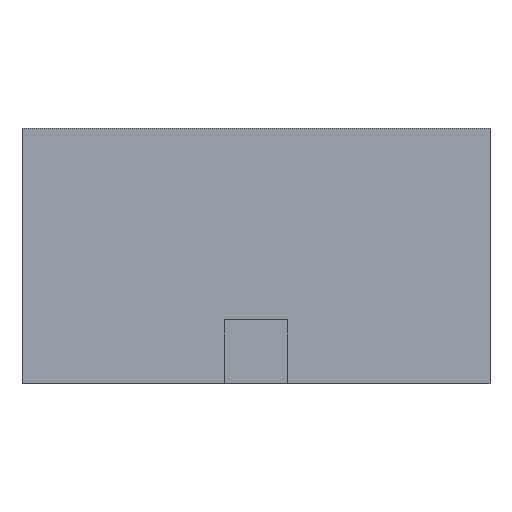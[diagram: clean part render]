
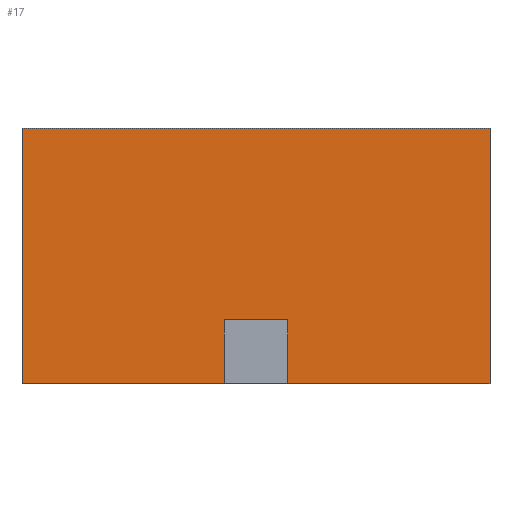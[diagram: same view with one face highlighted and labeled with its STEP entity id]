
A CAD part, left-side view. The second image highlights one B-rep face of the part: STEP entity #17.
In plain terms, the highlighted planar face has unit normal (-1, 0, 0).
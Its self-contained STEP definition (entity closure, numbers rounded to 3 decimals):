
#17 = ADVANCED_FACE('',(#18),#32,.F.);
#18 = FACE_BOUND('',#19,.F.);
#19 = EDGE_LOOP('',(#20,#55,#83,#111,#138,#164,#191,#214));
#20 = ORIENTED_EDGE('',*,*,#21,.F.);
#21 = EDGE_CURVE('',#22,#24,#26,.T.);
#22 = VERTEX_POINT('',#23);
#23 = CARTESIAN_POINT('',(46.,-11.,15.));
#24 = VERTEX_POINT('',#25);
#25 = CARTESIAN_POINT('',(46.,11.,15.));
#26 = SURFACE_CURVE('',#27,(#31,#43),.PCURVE_S1.);
#27 = LINE('',#28,#29);
#28 = CARTESIAN_POINT('',(46.,-11.,15.));
#29 = VECTOR('',#30,1.);
#30 = DIRECTION('',(0.,1.,0.));
#31 = PCURVE('',#32,#37);
#32 = PLANE('',#33);
#33 = AXIS2_PLACEMENT_3D('',#34,#35,#36);
#34 = CARTESIAN_POINT('',(46.,-11.,3.));
#35 = DIRECTION('',(1.,0.,0.));
#36 = DIRECTION('',(0.,0.,1.));
#37 = DEFINITIONAL_REPRESENTATION('',(#38),#42);
#38 = LINE('',#39,#40);
#39 = CARTESIAN_POINT('',(12.,0.));
#40 = VECTOR('',#41,1.);
#41 = DIRECTION('',(0.,-1.));
#42 = ( GEOMETRIC_REPRESENTATION_CONTEXT(2)
PARAMETRIC_REPRESENTATION_CONTEXT() REPRESENTATION_CONTEXT('2D SPACE',''
  ) );
#43 = PCURVE('',#44,#49);
#44 = PLANE('',#45);
#45 = AXIS2_PLACEMENT_3D('',#46,#47,#48);
#46 = CARTESIAN_POINT('',(46.,-11.,15.));
#47 = DIRECTION('',(0.,0.,1.));
#48 = DIRECTION('',(1.,0.,0.));
#49 = DEFINITIONAL_REPRESENTATION('',(#50),#54);
#50 = LINE('',#51,#52);
#51 = CARTESIAN_POINT('',(0.,0.));
#52 = VECTOR('',#53,1.);
#53 = DIRECTION('',(0.,1.));
#54 = ( GEOMETRIC_REPRESENTATION_CONTEXT(2)
PARAMETRIC_REPRESENTATION_CONTEXT() REPRESENTATION_CONTEXT('2D SPACE',''
  ) );
#55 = ORIENTED_EDGE('',*,*,#56,.F.);
#56 = EDGE_CURVE('',#57,#22,#59,.T.);
#57 = VERTEX_POINT('',#58);
#58 = CARTESIAN_POINT('',(46.,-11.,3.));
#59 = SURFACE_CURVE('',#60,(#64,#71),.PCURVE_S1.);
#60 = LINE('',#61,#62);
#61 = CARTESIAN_POINT('',(46.,-11.,3.));
#62 = VECTOR('',#63,1.);
#63 = DIRECTION('',(0.,0.,1.));
#64 = PCURVE('',#32,#65);
#65 = DEFINITIONAL_REPRESENTATION('',(#66),#70);
#66 = LINE('',#67,#68);
#67 = CARTESIAN_POINT('',(0.,0.));
#68 = VECTOR('',#69,1.);
#69 = DIRECTION('',(1.,0.));
#70 = ( GEOMETRIC_REPRESENTATION_CONTEXT(2)
PARAMETRIC_REPRESENTATION_CONTEXT() REPRESENTATION_CONTEXT('2D SPACE',''
  ) );
#71 = PCURVE('',#72,#77);
#72 = PLANE('',#73);
#73 = AXIS2_PLACEMENT_3D('',#74,#75,#76);
#74 = CARTESIAN_POINT('',(46.,-11.,3.));
#75 = DIRECTION('',(0.,1.,0.));
#76 = DIRECTION('',(0.,0.,1.));
#77 = DEFINITIONAL_REPRESENTATION('',(#78),#82);
#78 = LINE('',#79,#80);
#79 = CARTESIAN_POINT('',(0.,0.));
#80 = VECTOR('',#81,1.);
#81 = DIRECTION('',(1.,0.));
#82 = ( GEOMETRIC_REPRESENTATION_CONTEXT(2)
PARAMETRIC_REPRESENTATION_CONTEXT() REPRESENTATION_CONTEXT('2D SPACE',''
  ) );
#83 = ORIENTED_EDGE('',*,*,#84,.T.);
#84 = EDGE_CURVE('',#57,#85,#87,.T.);
#85 = VERTEX_POINT('',#86);
#86 = CARTESIAN_POINT('',(46.,-1.,3.));
#87 = SURFACE_CURVE('',#88,(#92,#99),.PCURVE_S1.);
#88 = LINE('',#89,#90);
#89 = CARTESIAN_POINT('',(46.,-11.,3.));
#90 = VECTOR('',#91,1.);
#91 = DIRECTION('',(0.,1.,0.));
#92 = PCURVE('',#32,#93);
#93 = DEFINITIONAL_REPRESENTATION('',(#94),#98);
#94 = LINE('',#95,#96);
#95 = CARTESIAN_POINT('',(0.,0.));
#96 = VECTOR('',#97,1.);
#97 = DIRECTION('',(0.,-1.));
#98 = ( GEOMETRIC_REPRESENTATION_CONTEXT(2)
PARAMETRIC_REPRESENTATION_CONTEXT() REPRESENTATION_CONTEXT('2D SPACE',''
  ) );
#99 = PCURVE('',#100,#105);
#100 = PLANE('',#101);
#101 = AXIS2_PLACEMENT_3D('',#102,#103,#104);
#102 = CARTESIAN_POINT('',(46.,-11.,3.));
#103 = DIRECTION('',(0.,0.,1.));
#104 = DIRECTION('',(1.,0.,0.));
#105 = DEFINITIONAL_REPRESENTATION('',(#106),#110);
#106 = LINE('',#107,#108);
#107 = CARTESIAN_POINT('',(0.,0.));
#108 = VECTOR('',#109,1.);
#109 = DIRECTION('',(0.,1.));
#110 = ( GEOMETRIC_REPRESENTATION_CONTEXT(2)
PARAMETRIC_REPRESENTATION_CONTEXT() REPRESENTATION_CONTEXT('2D SPACE',''
  ) );
#111 = ORIENTED_EDGE('',*,*,#112,.T.);
#112 = EDGE_CURVE('',#85,#113,#115,.T.);
#113 = VERTEX_POINT('',#114);
#114 = CARTESIAN_POINT('',(46.,-1.,6.));
#115 = SURFACE_CURVE('',#116,(#120,#126),.PCURVE_S1.);
#116 = LINE('',#117,#118);
#117 = CARTESIAN_POINT('',(46.,-1.,3.));
#118 = VECTOR('',#119,1.);
#119 = DIRECTION('',(0.,0.,1.));
#120 = PCURVE('',#32,#121);
#121 = DEFINITIONAL_REPRESENTATION('',(#122),#125);
#122 = B_SPLINE_CURVE_WITH_KNOTS('',1,(#123,#124),.UNSPECIFIED.,.F.,.F.,
  (2,2),(0.,3.),.PIECEWISE_BEZIER_KNOTS.);
#123 = CARTESIAN_POINT('',(0.,-10.));
#124 = CARTESIAN_POINT('',(3.,-10.));
#125 = ( GEOMETRIC_REPRESENTATION_CONTEXT(2)
PARAMETRIC_REPRESENTATION_CONTEXT() REPRESENTATION_CONTEXT('2D SPACE',''
  ) );
#126 = PCURVE('',#127,#132);
#127 = PLANE('',#128);
#128 = AXIS2_PLACEMENT_3D('',#129,#130,#131);
#129 = CARTESIAN_POINT('',(13.,-1.,3.));
#130 = DIRECTION('',(0.,1.,0.));
#131 = DIRECTION('',(0.,0.,1.));
#132 = DEFINITIONAL_REPRESENTATION('',(#133),#137);
#133 = LINE('',#134,#135);
#134 = CARTESIAN_POINT('',(0.,33.));
#135 = VECTOR('',#136,1.);
#136 = DIRECTION('',(1.,0.));
#137 = ( GEOMETRIC_REPRESENTATION_CONTEXT(2)
PARAMETRIC_REPRESENTATION_CONTEXT() REPRESENTATION_CONTEXT('2D SPACE',''
  ) );
#138 = ORIENTED_EDGE('',*,*,#139,.F.);
#139 = EDGE_CURVE('',#140,#113,#142,.T.);
#140 = VERTEX_POINT('',#141);
#141 = CARTESIAN_POINT('',(46.,1.,6.));
#142 = SURFACE_CURVE('',#143,(#147,#153),.PCURVE_S1.);
#143 = LINE('',#144,#145);
#144 = CARTESIAN_POINT('',(46.,-6.,6.));
#145 = VECTOR('',#146,1.);
#146 = DIRECTION('',(0.,-1.,0.));
#147 = PCURVE('',#32,#148);
#148 = DEFINITIONAL_REPRESENTATION('',(#149),#152);
#149 = B_SPLINE_CURVE_WITH_KNOTS('',1,(#150,#151),.UNSPECIFIED.,.F.,.F.,
  (2,2),(-7.,-5.),.PIECEWISE_BEZIER_KNOTS.);
#150 = CARTESIAN_POINT('',(3.,-12.));
#151 = CARTESIAN_POINT('',(3.,-10.));
#152 = ( GEOMETRIC_REPRESENTATION_CONTEXT(2)
PARAMETRIC_REPRESENTATION_CONTEXT() REPRESENTATION_CONTEXT('2D SPACE',''
  ) );
#153 = PCURVE('',#154,#159);
#154 = PLANE('',#155);
#155 = AXIS2_PLACEMENT_3D('',#156,#157,#158);
#156 = CARTESIAN_POINT('',(13.,-1.,6.));
#157 = DIRECTION('',(0.,0.,1.));
#158 = DIRECTION('',(1.,0.,0.));
#159 = DEFINITIONAL_REPRESENTATION('',(#160),#163);
#160 = B_SPLINE_CURVE_WITH_KNOTS('',1,(#161,#162),.UNSPECIFIED.,.F.,.F.,
  (2,2),(-7.,-5.),.PIECEWISE_BEZIER_KNOTS.);
#161 = CARTESIAN_POINT('',(33.,2.));
#162 = CARTESIAN_POINT('',(33.,0.));
#163 = ( GEOMETRIC_REPRESENTATION_CONTEXT(2)
PARAMETRIC_REPRESENTATION_CONTEXT() REPRESENTATION_CONTEXT('2D SPACE',''
  ) );
#164 = ORIENTED_EDGE('',*,*,#165,.F.);
#165 = EDGE_CURVE('',#166,#140,#168,.T.);
#166 = VERTEX_POINT('',#167);
#167 = CARTESIAN_POINT('',(46.,1.,3.));
#168 = SURFACE_CURVE('',#169,(#173,#179),.PCURVE_S1.);
#169 = LINE('',#170,#171);
#170 = CARTESIAN_POINT('',(46.,1.,3.));
#171 = VECTOR('',#172,1.);
#172 = DIRECTION('',(0.,0.,1.));
#173 = PCURVE('',#32,#174);
#174 = DEFINITIONAL_REPRESENTATION('',(#175),#178);
#175 = B_SPLINE_CURVE_WITH_KNOTS('',1,(#176,#177),.UNSPECIFIED.,.F.,.F.,
  (2,2),(0.,3.),.PIECEWISE_BEZIER_KNOTS.);
#176 = CARTESIAN_POINT('',(0.,-12.));
#177 = CARTESIAN_POINT('',(3.,-12.));
#178 = ( GEOMETRIC_REPRESENTATION_CONTEXT(2)
PARAMETRIC_REPRESENTATION_CONTEXT() REPRESENTATION_CONTEXT('2D SPACE',''
  ) );
#179 = PCURVE('',#180,#185);
#180 = PLANE('',#181);
#181 = AXIS2_PLACEMENT_3D('',#182,#183,#184);
#182 = CARTESIAN_POINT('',(13.,1.,3.));
#183 = DIRECTION('',(0.,1.,0.));
#184 = DIRECTION('',(0.,0.,1.));
#185 = DEFINITIONAL_REPRESENTATION('',(#186),#190);
#186 = LINE('',#187,#188);
#187 = CARTESIAN_POINT('',(0.,33.));
#188 = VECTOR('',#189,1.);
#189 = DIRECTION('',(1.,0.));
#190 = ( GEOMETRIC_REPRESENTATION_CONTEXT(2)
PARAMETRIC_REPRESENTATION_CONTEXT() REPRESENTATION_CONTEXT('2D SPACE',''
  ) );
#191 = ORIENTED_EDGE('',*,*,#192,.T.);
#192 = EDGE_CURVE('',#166,#193,#195,.T.);
#193 = VERTEX_POINT('',#194);
#194 = CARTESIAN_POINT('',(46.,11.,3.));
#195 = SURFACE_CURVE('',#196,(#200,#207),.PCURVE_S1.);
#196 = LINE('',#197,#198);
#197 = CARTESIAN_POINT('',(46.,-11.,3.));
#198 = VECTOR('',#199,1.);
#199 = DIRECTION('',(0.,1.,0.));
#200 = PCURVE('',#32,#201);
#201 = DEFINITIONAL_REPRESENTATION('',(#202),#206);
#202 = LINE('',#203,#204);
#203 = CARTESIAN_POINT('',(0.,0.));
#204 = VECTOR('',#205,1.);
#205 = DIRECTION('',(0.,-1.));
#206 = ( GEOMETRIC_REPRESENTATION_CONTEXT(2)
PARAMETRIC_REPRESENTATION_CONTEXT() REPRESENTATION_CONTEXT('2D SPACE',''
  ) );
#207 = PCURVE('',#100,#208);
#208 = DEFINITIONAL_REPRESENTATION('',(#209),#213);
#209 = LINE('',#210,#211);
#210 = CARTESIAN_POINT('',(0.,0.));
#211 = VECTOR('',#212,1.);
#212 = DIRECTION('',(0.,1.));
#213 = ( GEOMETRIC_REPRESENTATION_CONTEXT(2)
PARAMETRIC_REPRESENTATION_CONTEXT() REPRESENTATION_CONTEXT('2D SPACE',''
  ) );
#214 = ORIENTED_EDGE('',*,*,#215,.T.);
#215 = EDGE_CURVE('',#193,#24,#216,.T.);
#216 = SURFACE_CURVE('',#217,(#221,#228),.PCURVE_S1.);
#217 = LINE('',#218,#219);
#218 = CARTESIAN_POINT('',(46.,11.,3.));
#219 = VECTOR('',#220,1.);
#220 = DIRECTION('',(0.,0.,1.));
#221 = PCURVE('',#32,#222);
#222 = DEFINITIONAL_REPRESENTATION('',(#223),#227);
#223 = LINE('',#224,#225);
#224 = CARTESIAN_POINT('',(0.,-22.));
#225 = VECTOR('',#226,1.);
#226 = DIRECTION('',(1.,0.));
#227 = ( GEOMETRIC_REPRESENTATION_CONTEXT(2)
PARAMETRIC_REPRESENTATION_CONTEXT() REPRESENTATION_CONTEXT('2D SPACE',''
  ) );
#228 = PCURVE('',#229,#234);
#229 = PLANE('',#230);
#230 = AXIS2_PLACEMENT_3D('',#231,#232,#233);
#231 = CARTESIAN_POINT('',(46.,11.,3.));
#232 = DIRECTION('',(0.,1.,0.));
#233 = DIRECTION('',(0.,0.,1.));
#234 = DEFINITIONAL_REPRESENTATION('',(#235),#239);
#235 = LINE('',#236,#237);
#236 = CARTESIAN_POINT('',(0.,0.));
#237 = VECTOR('',#238,1.);
#238 = DIRECTION('',(1.,0.));
#239 = ( GEOMETRIC_REPRESENTATION_CONTEXT(2)
PARAMETRIC_REPRESENTATION_CONTEXT() REPRESENTATION_CONTEXT('2D SPACE',''
  ) );
